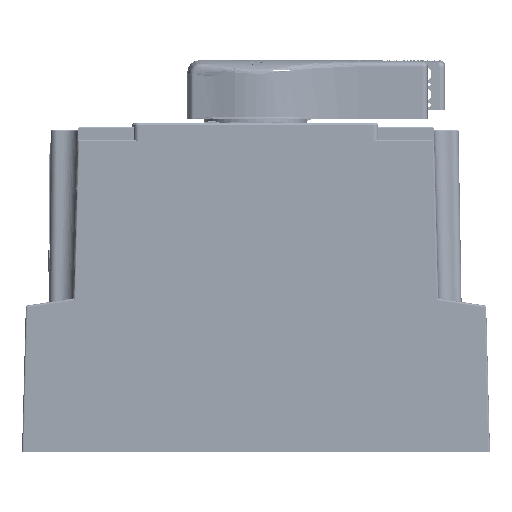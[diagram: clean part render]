
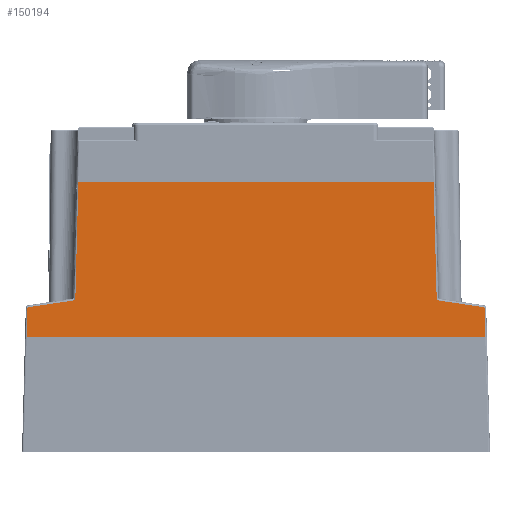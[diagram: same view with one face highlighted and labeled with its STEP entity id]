
A CAD part, left-side view. The second image highlights one B-rep face of the part: STEP entity #150194.
In plain terms, the highlighted planar face has unit normal (-1, 0, 0.018).
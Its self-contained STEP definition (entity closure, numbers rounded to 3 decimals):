
#116596=DIRECTION('',(0.,1.,0.));
#116597=VECTOR('',#116596,206.441);
#116598=CARTESIAN_POINT('',(-344.256,-103.222,
157.2));
#116599=LINE('',#116598,#116597);
#116975=DIRECTION('',(0.,-1.,0.));
#116976=VECTOR('',#116975,266.481);
#116977=CARTESIAN_POINT('',(-345.827,133.24,67.2));
#116978=LINE('',#116977,#116976);
#120275=DIRECTION('',(-0.017,-0.026,
-1.));
#120276=VECTOR('',#120275,68.93);
#120277=CARTESIAN_POINT('',(-344.256,-103.222,
157.2));
#120278=LINE('',#120277,#120276);
#120279=DIRECTION('',(-0.003,-0.989,
-0.148));
#120280=VECTOR('',#120279,28.082);
#120281=CARTESIAN_POINT('',(-345.459,-105.023,
88.304));
#120282=LINE('',#120281,#120280);
#120283=DIRECTION('',(-0.017,-0.026,
-1.));
#120284=VECTOR('',#120283,16.961);
#120285=CARTESIAN_POINT('',(-345.531,-132.797,
84.152));
#120286=LINE('',#120285,#120284);
#120287=DIRECTION('',(0.017,-0.026,1.));
#120288=VECTOR('',#120287,16.961);
#120289=CARTESIAN_POINT('',(-345.827,133.24,67.2));
#120290=LINE('',#120289,#120288);
#120291=DIRECTION('',(0.003,-0.989,0.148));
#120292=VECTOR('',#120291,28.083);
#120293=CARTESIAN_POINT('',(-345.531,132.797,
84.152));
#120294=LINE('',#120293,#120292);
#120295=DIRECTION('',(0.017,-0.026,1.));
#120296=VECTOR('',#120295,68.931);
#120297=CARTESIAN_POINT('',(-345.459,105.022,
88.303));
#120298=LINE('',#120297,#120296);
#120299=CARTESIAN_POINT('',(-344.256,-103.222,
157.2));
#131439=CARTESIAN_POINT('',(-345.827,133.24,67.2));
#137190=VERTEX_POINT('',#131439);
#137191=CARTESIAN_POINT('',(-345.827,-133.24,67.2));
#137192=VERTEX_POINT('',#137191);
#137404=VERTEX_POINT('',#120299);
#137405=CARTESIAN_POINT('',(-344.256,103.218,
157.2));
#137406=VERTEX_POINT('',#137405);
#139215=CARTESIAN_POINT('',(-345.459,105.022,
88.303));
#139216=VERTEX_POINT('',#139215);
#139217=CARTESIAN_POINT('',(-345.459,-105.023,
88.304));
#139218=VERTEX_POINT('',#139217);
#139219=CARTESIAN_POINT('',(-345.531,-132.797,
84.152));
#139220=VERTEX_POINT('',#139219);
#139221=CARTESIAN_POINT('',(-345.531,132.797,
84.152));
#139222=VERTEX_POINT('',#139221);
#150174=CARTESIAN_POINT('',(-343.43,-136.,204.53));
#150175=DIRECTION('',(1.,0.,-0.017));
#150176=DIRECTION('',(0.017,0.,1.));
#150177=AXIS2_PLACEMENT_3D('',#150174,#150175,#150176);
#150178=PLANE('',#150177);
#150180=ORIENTED_EDGE('',*,*,#150179,.T.);
#150182=ORIENTED_EDGE('',*,*,#150181,.T.);
#150184=ORIENTED_EDGE('',*,*,#150183,.T.);
#150185=ORIENTED_EDGE('',*,*,#145902,.F.);
#150187=ORIENTED_EDGE('',*,*,#150186,.T.);
#150189=ORIENTED_EDGE('',*,*,#150188,.T.);
#150190=ORIENTED_EDGE('',*,*,#150165,.T.);
#150191=ORIENTED_EDGE('',*,*,#145406,.F.);
#150192=EDGE_LOOP('',(#150180,#150182,#150184,#150185,#150187,#150189,#150190,
#150191));
#150193=FACE_OUTER_BOUND('',#150192,.F.);
#150194=ADVANCED_FACE('',(#150193),#150178,.F.);
#145406=EDGE_CURVE('',#137404,#137406,#116599,.T.);
#145902=EDGE_CURVE('',#137190,#137192,#116978,.T.);
#150165=EDGE_CURVE('',#139216,#137406,#120298,.T.);
#150179=EDGE_CURVE('',#137404,#139218,#120278,.T.);
#150181=EDGE_CURVE('',#139218,#139220,#120282,.T.);
#150183=EDGE_CURVE('',#139220,#137192,#120286,.T.);
#150186=EDGE_CURVE('',#137190,#139222,#120290,.T.);
#150188=EDGE_CURVE('',#139222,#139216,#120294,.T.);
